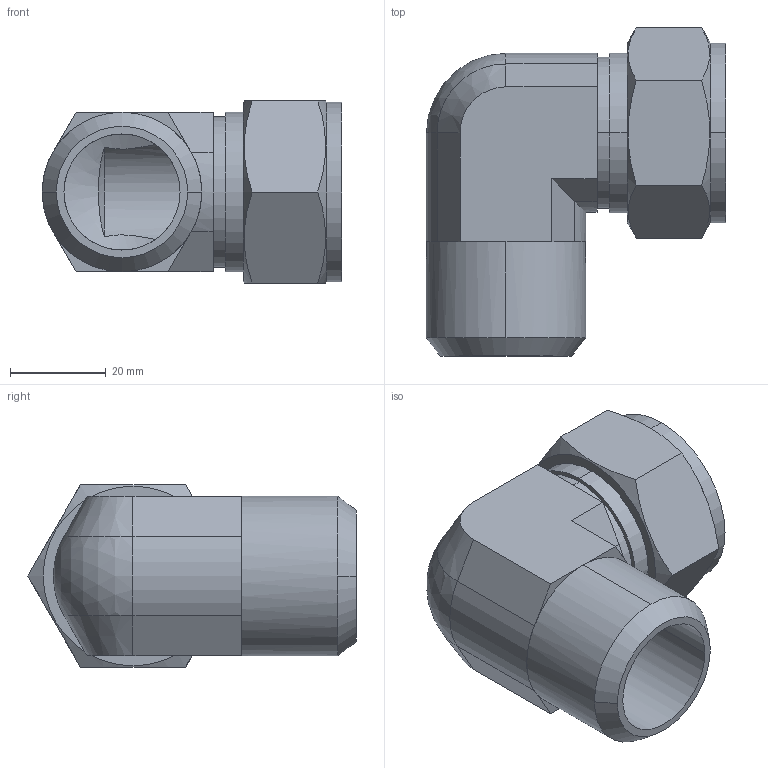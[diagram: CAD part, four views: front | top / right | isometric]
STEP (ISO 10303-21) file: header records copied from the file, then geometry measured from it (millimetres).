
FILE_DESCRIPTION (( 'STEP AP203' ), '1' );
FILE_NAME ('DLB 16-16 SS.STEP', '2009-09-08T06:39:58', ( ' ' ), ( '' ), 'SwSTEP 2.0', 'SolidWorks 2008', '' );
FILE_SCHEMA (( 'CONFIG_CONTROL_DESIGN' ));
Length unit declared in the file: millimetre
Products named in the file (1): DLB 16-16 SS
Bounding box: 62.7 x 68.7 x 38.1 mm (x, y, z)
Volume: 45342 mm3; surface area: 18897.4 mm2
Topology: 1 solids, 1 shells, 59 faces, 145 edges, 91 vertices
Faces by surface type: plane 30, cylinder 18, cone 10, sphere 1
Entity records: 2048 total; most frequent: CARTESIAN_POINT 589, DIRECTION 290, ORIENTED_EDGE 286, EDGE_CURVE 143, AXIS2_PLACEMENT_3D 111, VERTEX_POINT 90, VECTOR 68, LINE 68
